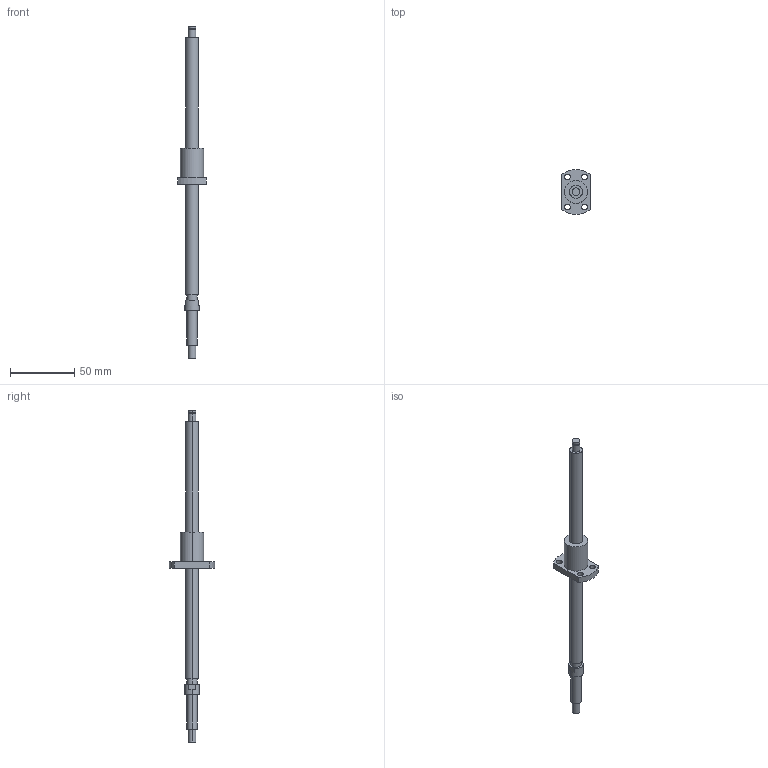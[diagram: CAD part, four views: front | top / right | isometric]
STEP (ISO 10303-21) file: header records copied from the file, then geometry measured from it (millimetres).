
FILE_DESCRIPTION((''),'2;1');
FILE_NAME('R10-2T3-FSI-200-258','2008-03-28T',('mahdi'),(''),'PRO/ENGINEER BY PARAMETRIC TECHNOLOGY CORPORATION, 2005070','PRO/ENGINEER BY PARAMETRIC TECHNOLOGY CORPORATION, 2005070','');
FILE_SCHEMA(('CONFIG_CONTROL_DESIGN'));
Length unit declared in the file: millimetre
Products named in the file (1): R10-2T3-FSI-200-258
Bounding box: 22 x 35 x 258 mm (x, y, z)
Volume: 25523.5 mm3; surface area: 10337.5 mm2
Topology: 1 solids, 1 shells, 48 faces, 108 edges, 72 vertices
Faces by surface type: cylinder 30, plane 18
Entity records: 1430 total; most frequent: DIRECTION 268, CARTESIAN_POINT 228, ORIENTED_EDGE 216, AXIS2_PLACEMENT_3D 112, EDGE_CURVE 108, VERTEX_POINT 72, EDGE_LOOP 66, CIRCLE 64
